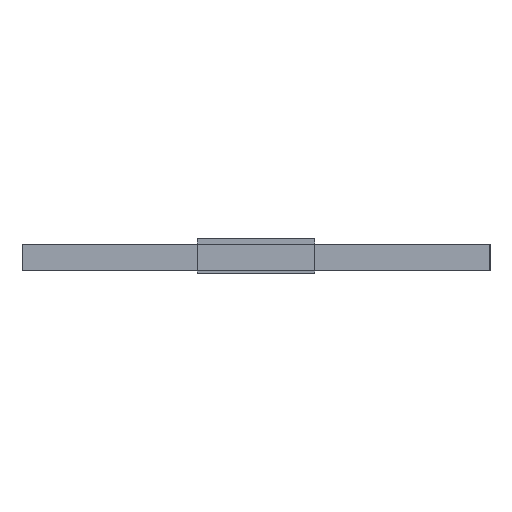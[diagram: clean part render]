
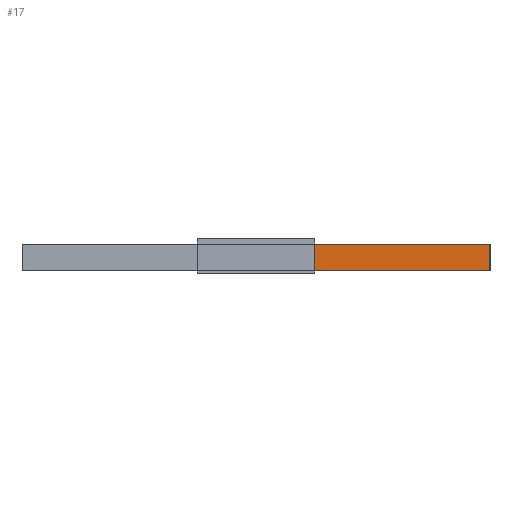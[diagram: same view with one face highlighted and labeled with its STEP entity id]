
A CAD part, left-side view. The second image highlights one B-rep face of the part: STEP entity #17.
In plain terms, the highlighted planar face has unit normal (-1, 0, 0).
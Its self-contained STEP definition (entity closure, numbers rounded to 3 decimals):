
#17 = ADVANCED_FACE('',(#18),#32,.F.);
#18 = FACE_BOUND('',#19,.F.);
#19 = EDGE_LOOP('',(#20,#55,#83,#111));
#20 = ORIENTED_EDGE('',*,*,#21,.F.);
#21 = EDGE_CURVE('',#22,#24,#26,.T.);
#22 = VERTEX_POINT('',#23);
#23 = CARTESIAN_POINT('',(-9.,-44.,21.));
#24 = VERTEX_POINT('',#25);
#25 = CARTESIAN_POINT('',(-9.,-38.,21.));
#26 = SURFACE_CURVE('',#27,(#31,#43),.PCURVE_S1.);
#27 = LINE('',#28,#29);
#28 = CARTESIAN_POINT('',(-9.,-44.,21.));
#29 = VECTOR('',#30,1.);
#30 = DIRECTION('',(0.,1.,0.));
#31 = PCURVE('',#32,#37);
#32 = PLANE('',#33);
#33 = AXIS2_PLACEMENT_3D('',#34,#35,#36);
#34 = CARTESIAN_POINT('',(-9.,-44.,20.1));
#35 = DIRECTION('',(1.,0.,0.));
#36 = DIRECTION('',(0.,0.,1.));
#37 = DEFINITIONAL_REPRESENTATION('',(#38),#42);
#38 = LINE('',#39,#40);
#39 = CARTESIAN_POINT('',(0.9,0.));
#40 = VECTOR('',#41,1.);
#41 = DIRECTION('',(0.,-1.));
#42 = ( GEOMETRIC_REPRESENTATION_CONTEXT(2) 
PARAMETRIC_REPRESENTATION_CONTEXT() REPRESENTATION_CONTEXT('2D SPACE',''
  ) );
#43 = PCURVE('',#44,#49);
#44 = PLANE('',#45);
#45 = AXIS2_PLACEMENT_3D('',#46,#47,#48);
#46 = CARTESIAN_POINT('',(-9.,-44.,21.));
#47 = DIRECTION('',(0.,0.,1.));
#48 = DIRECTION('',(1.,0.,0.));
#49 = DEFINITIONAL_REPRESENTATION('',(#50),#54);
#50 = LINE('',#51,#52);
#51 = CARTESIAN_POINT('',(0.,0.));
#52 = VECTOR('',#53,1.);
#53 = DIRECTION('',(0.,1.));
#54 = ( GEOMETRIC_REPRESENTATION_CONTEXT(2) 
PARAMETRIC_REPRESENTATION_CONTEXT() REPRESENTATION_CONTEXT('2D SPACE',''
  ) );
#55 = ORIENTED_EDGE('',*,*,#56,.F.);
#56 = EDGE_CURVE('',#57,#22,#59,.T.);
#57 = VERTEX_POINT('',#58);
#58 = CARTESIAN_POINT('',(-9.,-44.,20.1));
#59 = SURFACE_CURVE('',#60,(#64,#71),.PCURVE_S1.);
#60 = LINE('',#61,#62);
#61 = CARTESIAN_POINT('',(-9.,-44.,20.1));
#62 = VECTOR('',#63,1.);
#63 = DIRECTION('',(0.,0.,1.));
#64 = PCURVE('',#32,#65);
#65 = DEFINITIONAL_REPRESENTATION('',(#66),#70);
#66 = LINE('',#67,#68);
#67 = CARTESIAN_POINT('',(0.,0.));
#68 = VECTOR('',#69,1.);
#69 = DIRECTION('',(1.,0.));
#70 = ( GEOMETRIC_REPRESENTATION_CONTEXT(2) 
PARAMETRIC_REPRESENTATION_CONTEXT() REPRESENTATION_CONTEXT('2D SPACE',''
  ) );
#71 = PCURVE('',#72,#77);
#72 = PLANE('',#73);
#73 = AXIS2_PLACEMENT_3D('',#74,#75,#76);
#74 = CARTESIAN_POINT('',(-9.,-44.,20.1));
#75 = DIRECTION('',(0.,1.,0.));
#76 = DIRECTION('',(0.,0.,1.));
#77 = DEFINITIONAL_REPRESENTATION('',(#78),#82);
#78 = LINE('',#79,#80);
#79 = CARTESIAN_POINT('',(0.,0.));
#80 = VECTOR('',#81,1.);
#81 = DIRECTION('',(1.,0.));
#82 = ( GEOMETRIC_REPRESENTATION_CONTEXT(2) 
PARAMETRIC_REPRESENTATION_CONTEXT() REPRESENTATION_CONTEXT('2D SPACE',''
  ) );
#83 = ORIENTED_EDGE('',*,*,#84,.T.);
#84 = EDGE_CURVE('',#57,#85,#87,.T.);
#85 = VERTEX_POINT('',#86);
#86 = CARTESIAN_POINT('',(-9.,-38.,20.1));
#87 = SURFACE_CURVE('',#88,(#92,#99),.PCURVE_S1.);
#88 = LINE('',#89,#90);
#89 = CARTESIAN_POINT('',(-9.,-44.,20.1));
#90 = VECTOR('',#91,1.);
#91 = DIRECTION('',(0.,1.,0.));
#92 = PCURVE('',#32,#93);
#93 = DEFINITIONAL_REPRESENTATION('',(#94),#98);
#94 = LINE('',#95,#96);
#95 = CARTESIAN_POINT('',(0.,0.));
#96 = VECTOR('',#97,1.);
#97 = DIRECTION('',(0.,-1.));
#98 = ( GEOMETRIC_REPRESENTATION_CONTEXT(2) 
PARAMETRIC_REPRESENTATION_CONTEXT() REPRESENTATION_CONTEXT('2D SPACE',''
  ) );
#99 = PCURVE('',#100,#105);
#100 = PLANE('',#101);
#101 = AXIS2_PLACEMENT_3D('',#102,#103,#104);
#102 = CARTESIAN_POINT('',(-9.,-44.,20.1));
#103 = DIRECTION('',(0.,0.,1.));
#104 = DIRECTION('',(1.,0.,0.));
#105 = DEFINITIONAL_REPRESENTATION('',(#106),#110);
#106 = LINE('',#107,#108);
#107 = CARTESIAN_POINT('',(0.,0.));
#108 = VECTOR('',#109,1.);
#109 = DIRECTION('',(0.,1.));
#110 = ( GEOMETRIC_REPRESENTATION_CONTEXT(2) 
PARAMETRIC_REPRESENTATION_CONTEXT() REPRESENTATION_CONTEXT('2D SPACE',''
  ) );
#111 = ORIENTED_EDGE('',*,*,#112,.T.);
#112 = EDGE_CURVE('',#85,#24,#113,.T.);
#113 = SURFACE_CURVE('',#114,(#118,#124),.PCURVE_S1.);
#114 = LINE('',#115,#116);
#115 = CARTESIAN_POINT('',(-9.,-38.,20.1));
#116 = VECTOR('',#117,1.);
#117 = DIRECTION('',(0.,0.,1.));
#118 = PCURVE('',#32,#119);
#119 = DEFINITIONAL_REPRESENTATION('',(#120),#123);
#120 = B_SPLINE_CURVE_WITH_KNOTS('',1,(#121,#122),.UNSPECIFIED.,.F.,.F.,
  (2,2),(0.,0.9),.PIECEWISE_BEZIER_KNOTS.);
#121 = CARTESIAN_POINT('',(0.,-6.));
#122 = CARTESIAN_POINT('',(0.9,-6.));
#123 = ( GEOMETRIC_REPRESENTATION_CONTEXT(2) 
PARAMETRIC_REPRESENTATION_CONTEXT() REPRESENTATION_CONTEXT('2D SPACE',''
  ) );
#124 = PCURVE('',#125,#130);
#125 = PLANE('',#126);
#126 = AXIS2_PLACEMENT_3D('',#127,#128,#129);
#127 = CARTESIAN_POINT('',(-37.,-38.,20.1));
#128 = DIRECTION('',(0.,1.,0.));
#129 = DIRECTION('',(0.,0.,1.));
#130 = DEFINITIONAL_REPRESENTATION('',(#131),#135);
#131 = LINE('',#132,#133);
#132 = CARTESIAN_POINT('',(0.,28.));
#133 = VECTOR('',#134,1.);
#134 = DIRECTION('',(1.,0.));
#135 = ( GEOMETRIC_REPRESENTATION_CONTEXT(2) 
PARAMETRIC_REPRESENTATION_CONTEXT() REPRESENTATION_CONTEXT('2D SPACE',''
  ) );
